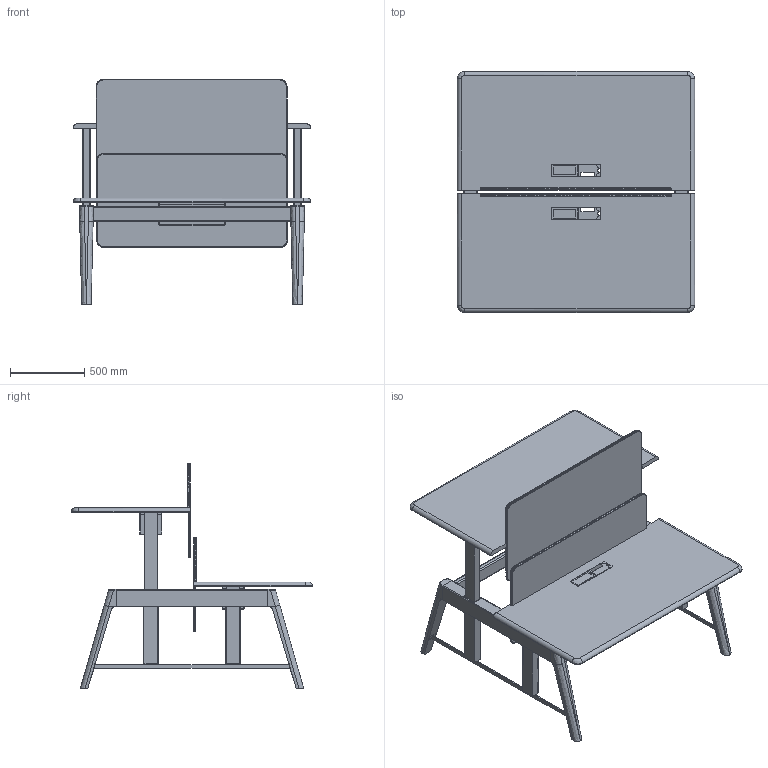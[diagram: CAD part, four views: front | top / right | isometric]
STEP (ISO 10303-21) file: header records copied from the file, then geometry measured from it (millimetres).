
FILE_DESCRIPTION (( 'STEP AP214' ), '1' );
FILE_NAME ('Sage Sit Stand Workbench.STEP', '2021-03-17T14:46:26', ( '' ), ( '' ), 'SwSTEP 2.0', 'SolidWorks 2020', '' );
FILE_SCHEMA (( 'AUTOMOTIVE_DESIGN' ));
Length unit declared in the file: millimetre
Products named in the file (1): Sage Sit Stand Workbench
Bounding box: 1600 x 1624.99 x 1522 mm (x, y, z)
Volume: 167293176.7 mm3; surface area: 14261939.7 mm2
Topology: 40 solids, 40 shells, 788 faces, 1930 edges, 1228 vertices
Faces by surface type: bspline 522, plane 266
Entity records: 25511 total; most frequent: CARTESIAN_POINT 12861, ORIENTED_EDGE 3860, EDGE_CURVE 1930, B_SPLINE_CURVE_WITH_KNOTS 1424, VERTEX_POINT 1228, EDGE_LOOP 818, ADVANCED_FACE 788, FACE_OUTER_BOUND 788
